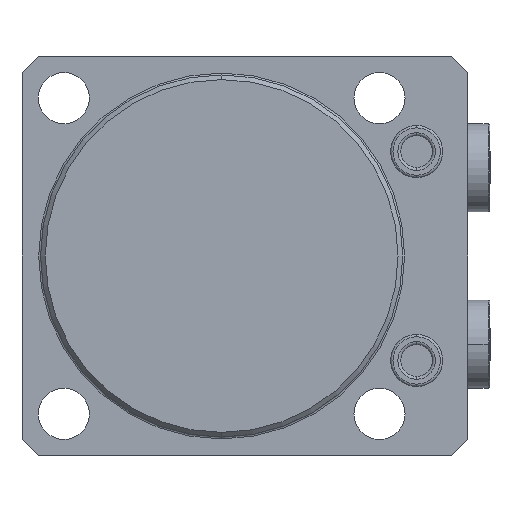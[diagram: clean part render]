
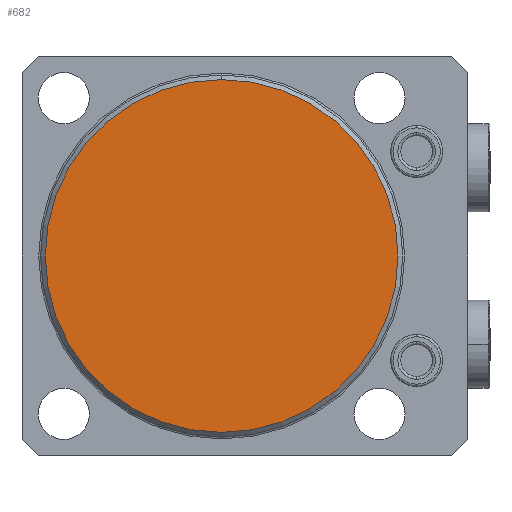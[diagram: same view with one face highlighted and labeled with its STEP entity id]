
A CAD part, front view. The second image highlights one B-rep face of the part: STEP entity #682.
In plain terms, the highlighted planar face has unit normal (0, -1, 0) as drawn and (0, 1, 0) by its records, which use the part's own axes.
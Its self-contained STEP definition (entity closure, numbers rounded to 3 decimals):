
#238=PLANE('',#4890);
#682=ADVANCED_FACE('',(#942),#238,.T.);
#942=FACE_OUTER_BOUND('',#1223,.F.);
#1223=EDGE_LOOP('',(#2843,#2844));
#2843=ORIENTED_EDGE('',*,*,#4065,.T.);
#2844=ORIENTED_EDGE('',*,*,#3970,.T.);
#3422=VERTEX_POINT('',#7450);
#3423=VERTEX_POINT('',#7451);
#3970=EDGE_CURVE('',#3422,#3423,#4374,.T.);
#4065=EDGE_CURVE('',#3423,#3422,#4394,.T.);
#4374=CIRCLE('',#4852,38.);
#4394=CIRCLE('',#4889,38.);
#4852=AXIS2_PLACEMENT_3D('',#7449,#6045,#6046);
#4889=AXIS2_PLACEMENT_3D('',#7724,#6169,#6170);
#4890=AXIS2_PLACEMENT_3D('',#7725,#6171,#6172);
#6045=DIRECTION('',(0.,-1.,0.));
#6046=DIRECTION('',(0.,0.,1.));
#6169=DIRECTION('',(0.,-1.,0.));
#6170=DIRECTION('',(0.,0.,1.));
#6171=DIRECTION('',(0.,1.,0.));
#6172=DIRECTION('',(0.,0.,1.));
#7449=CARTESIAN_POINT('',(0.,-55.,0.));
#7450=CARTESIAN_POINT('',(0.,-55.,-38.));
#7451=CARTESIAN_POINT('',(0.,-55.,38.));
#7724=CARTESIAN_POINT('',(0.,-55.,0.));
#7725=CARTESIAN_POINT('',(0.,-55.,0.));
